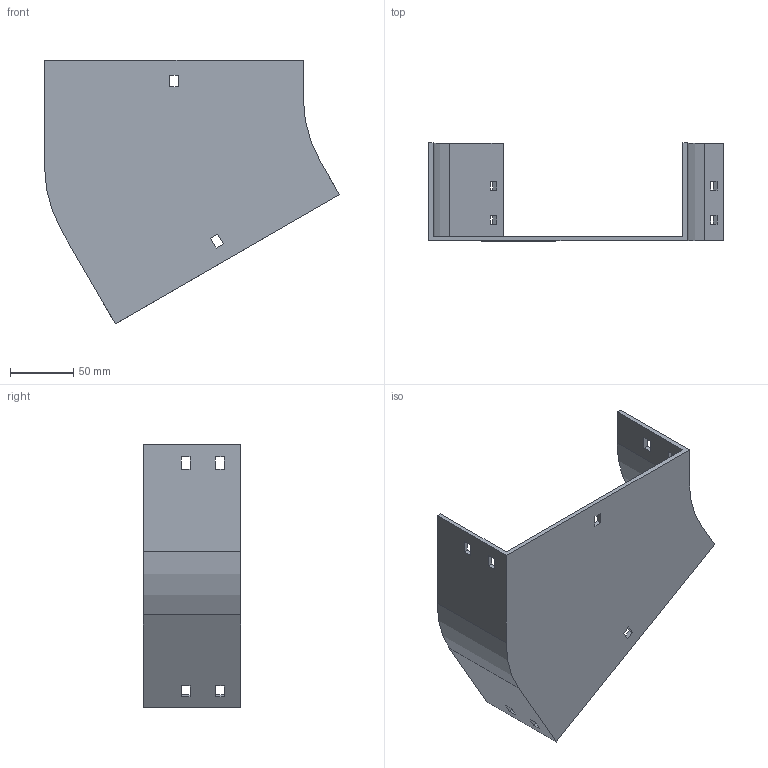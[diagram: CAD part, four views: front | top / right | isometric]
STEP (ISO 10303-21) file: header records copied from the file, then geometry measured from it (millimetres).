
FILE_DESCRIPTION (( 'STEP AP214' ), '1' );
FILE_NAME ('12F1C200.step', '2025-02-21T12:54:36', ( '' ), ( '' ), 'SwSTEP 2.0', 'SolidWorks 2023', '' );
FILE_SCHEMA (( 'AUTOMOTIVE_DESIGN' ));
Length unit declared in the file: millimetre
Products named in the file (1): 12F1C200
Bounding box: 232.4 x 77 x 207.98 mm (x, y, z)
Volume: 203694.6 mm3; surface area: 121192.1 mm2
Topology: 1 solids, 1 shells, 58 faces, 168 edges, 112 vertices
Faces by surface type: plane 54, cylinder 4
Entity records: 1943 total; most frequent: CARTESIAN_POINT 339, ORIENTED_EDGE 336, DIRECTION 294, EDGE_CURVE 168, VECTOR 160, LINE 160, VERTEX_POINT 112, EDGE_LOOP 78
